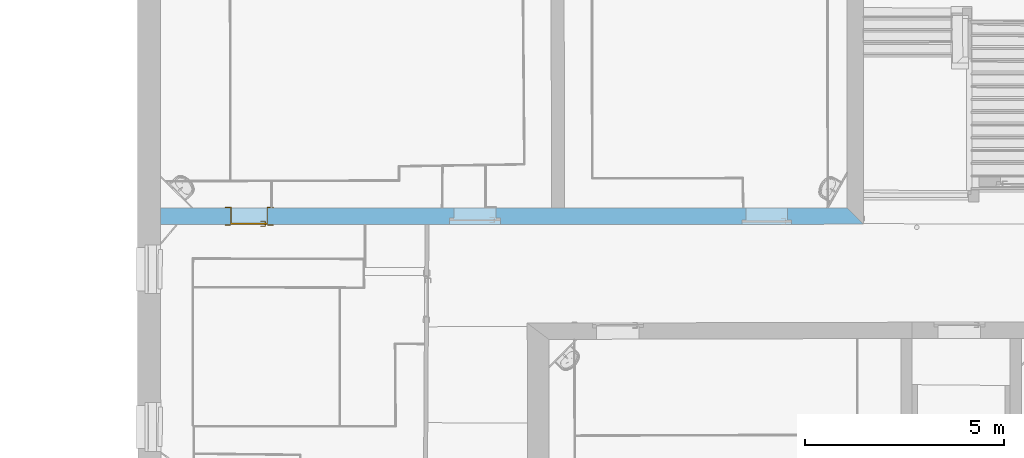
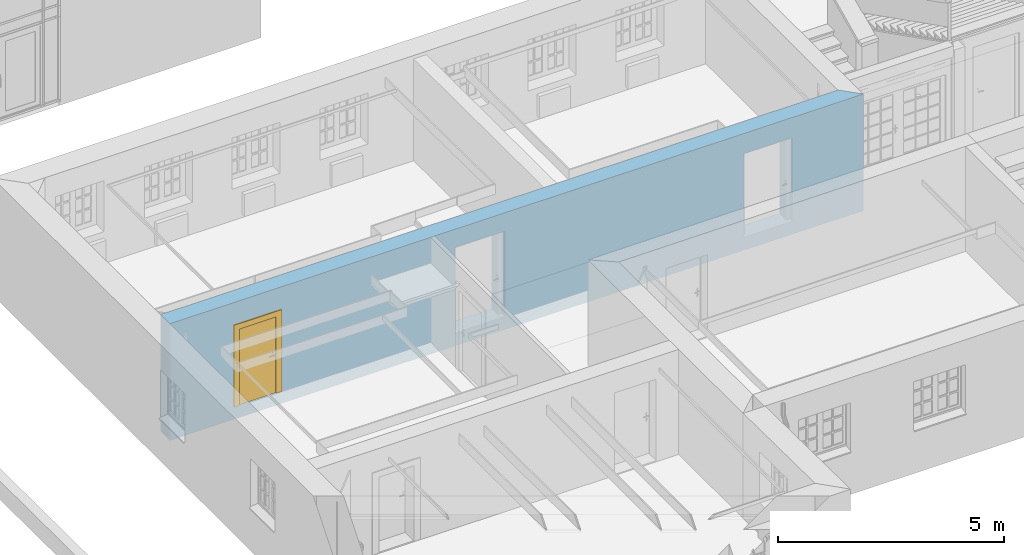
# One storey, part 75 of 196: 1 door, 3 openings, plus 1 element that does not belong to this part.
"""IFC2X3 building model written with IfcOpenShell, lengths in metres."""

from ifc_helpers import new_model, entity, si_unit, converted_unit, derived_unit, money_unit, direction, frame, origin_with_axes, origin_2d_with_axis, place, context, subcontext, project, spatial, polyline, rectangle, outline, extrude, open_shell, faceted_brep, surface_model, material, layer, layer_set, layer_usage, type_object, element, fill, save


model = new_model("IFC2X3")

# Units and contexts
model_context = context("Model", 3, precision=1e-05, world=origin_with_axes(), true_north=direction((0.0, 1.0)))
body_context = subcontext(model_context, "Body", "Model", "MODEL_VIEW")
ifc_project = project(units=[si_unit("LENGTHUNIT", "METRE"), si_unit("AREAUNIT", "SQUARE_METRE"), si_unit("VOLUMEUNIT", "CUBIC_METRE"), converted_unit("PLANEANGLEUNIT", "DEGREE", entity("IfcPlaneAngleMeasure", 0.0174532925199), si_unit("PLANEANGLEUNIT", "RADIAN"), dimensions=[0, 0, 0, 0, 0, 0, 0]), money_unit("EUR"), converted_unit("TIMEUNIT", "Year", entity("IfcTimeMeasure", 31556926.0), si_unit("TIMEUNIT", "SECOND"), dimensions=[0, 0, 1, 0, 0, 0, 0]), si_unit("MASSUNIT", "GRAM", prefix="KILO"), si_unit("THERMODYNAMICTEMPERATUREUNIT", "DEGREE_CELSIUS"), si_unit("LUMINOUSINTENSITYUNIT", "LUMEN"), si_unit("ENERGYUNIT", "JOULE", prefix="MEGA"), derived_unit("THERMALCONDUCTANCEUNIT", [(si_unit("POWERUNIT", "WATT"), 1), (si_unit("LENGTHUNIT", "METRE"), -1), (si_unit("THERMODYNAMICTEMPERATUREUNIT", "KELVIN"), -1)]), derived_unit("SPECIFICHEATCAPACITYUNIT", [(si_unit("ENERGYUNIT", "JOULE"), 1), (si_unit("MASSUNIT", "GRAM", prefix="KILO"), -1), (si_unit("THERMODYNAMICTEMPERATUREUNIT", "KELVIN"), -1)]), derived_unit("MASSDENSITYUNIT", [(si_unit("MASSUNIT", "GRAM", prefix="KILO"), 1), (si_unit("VOLUMEUNIT", "CUBIC_METRE"), -1)])], contexts=[model_context])

# Site, building, storey
site_placement = place(None, origin_with_axes())
site = spatial("IfcSite", under=ifc_project, at=site_placement, Name="Gelände", CompositionType="ELEMENT")
building_placement = place(site_placement, origin_with_axes())
building = spatial("IfcBuilding", under=site, at=building_placement, Name="Gebäude", CompositionType="ELEMENT")
storey_placement = place(building_placement, frame((0.0, 0.0, -3.0), z_axis=(0.0, 0.0, 1.0), x_axis=(1.0, 0.0, 0.0)))
storey = spatial("IfcBuildingStorey", under=building, at=storey_placement, Name="KELLERGESCHOSS", CompositionType="ELEMENT", Elevation=-3.0)

# Wall, openings, door
ifc_material = material(Name="05_ALLGEMEIN - TRAGENDE BAUTEILE")
ifc_layer = layer(ifc_material, 0.41, ventilated="UNKNOWN")
ifc_layer_set = layer_set([ifc_layer], Name="05_ALLGEMEIN - TRAGENDE BAUTEILE 0.41")
ifc_layer_usage = layer_usage(ifc_layer_set, "AXIS2", "POSITIVE", -0.41)
wall_type = type_object("IfcWallType", Name="05_ALLGEMEIN - TRAGENDE BAUTEILE 410", PredefinedType="ELEMENTEDWALL")
wall_placement = place(storey_placement, frame((-9.84148103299, 19.2659840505, -0.36), z_axis=(0.0, 0.0, 1.0), x_axis=(-0.999999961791, -0.000276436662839, 0.0)))
wall = element("IfcWallStandardCase", 1, at=wall_placement, inside=storey, type_object=wall_type, material=ifc_layer_usage, Name="Wand-036", ObjectType="ELEMENTEDWALL", context=body_context, shape_type="SweptSolid", body=[
    extrude(outline(polyline([(0.409925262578, -0.41), (17.7008366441, -0.41), (17.7005669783, 0.0), (0.0, 0.0), (0.409925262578, -0.41)])), origin_with_axes(), (0.0, 0.0, 1.0), 3.15),
])
opening_1_placement = place(wall_placement, frame((2.43435271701, 0.0, 0.34905591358), z_axis=(0.0, 0.0, 1.0), x_axis=(1.0, 0.0, 0.0)))
element("IfcOpeningElement", 2, at=opening_1_placement, cuts=wall, Name="Tür-022", context=body_context, shape_type="SweptSolid", body=[
    extrude(rectangle(XDim=1.05378116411, YDim=2.159205, at=origin_2d_with_axis()), frame((0.0, -0.11, 1.0796025), z_axis=(0.0, 1.0, 0.0), x_axis=(1.0, 0.0, 0.0)), (0.0, 0.0, -1.0), 0.71),
    extrude(rectangle(XDim=1.25378116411, YDim=2.259205, at=origin_2d_with_axis()), frame((0.0, -0.05, 1.1296025), z_axis=(0.0, -1.0, 0.0), x_axis=(1.0, 0.0, 0.0)), (0.0, 0.0, 1.0), 0.06),
    extrude(rectangle(XDim=1.25378116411, YDim=2.259205, at=origin_2d_with_axis()), frame((0.0, -0.05, 1.1296025), z_axis=(0.0, -1.0, 0.0), x_axis=(1.0, 0.0, 0.0)), (0.0, 0.0, -1.0), 0.46),
])
opening_2_placement = place(wall_placement, frame((9.78109364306, 0.0, 0.347304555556), z_axis=(0.0, 0.0, 1.0), x_axis=(1.0, 0.0, 0.0)))
element("IfcOpeningElement", 3, at=opening_2_placement, cuts=wall, Name="Tür-022", context=body_context, shape_type="SweptSolid", body=[
    extrude(rectangle(XDim=1.06444475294, YDim=2.200287, at=origin_2d_with_axis()), frame((0.0, -0.16, 1.1001435), z_axis=(0.0, 1.0, 0.0), x_axis=(1.0, 0.0, 0.0)), (0.0, 0.0, -1.0), 0.66),
    extrude(rectangle(XDim=1.28444475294, YDim=2.310287, at=origin_2d_with_axis()), frame((0.0, -0.08, 1.1551435), z_axis=(0.0, -1.0, 0.0), x_axis=(1.0, 0.0, 0.0)), (0.0, 0.0, -1.0), 0.49),
    extrude(rectangle(XDim=1.28444475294, YDim=2.310287, at=origin_2d_with_axis()), frame((0.0, -0.08, 1.1551435), z_axis=(0.0, -1.0, 0.0), x_axis=(1.0, 0.0, 0.0)), (0.0, 0.0, 1.0), 0.08),
])
opening_3_placement = place(wall_placement, frame((15.4703837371, 0.0, 0.347765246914), z_axis=(0.0, 0.0, 1.0), x_axis=(1.0, 0.0, 0.0)))
opening_3 = element("IfcOpeningElement", 4, at=opening_3_placement, cuts=wall, Name="Tür-022", context=body_context, shape_type="SweptSolid", body=[
    extrude(rectangle(XDim=0.929114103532, YDim=2.063068, at=origin_2d_with_axis()), frame((0.0, -0.41, 1.031534), z_axis=(0.0, 1.0, 0.0), x_axis=(1.0, 0.0, 0.0)), (0.0, 0.0, 1.0), 1.23),
])
door_style = type_object("IfcDoorStyle", Name="Blockrahmentür 1-Fl 25", ConstructionType="NOTDEFINED", OperationType="SINGLE_SWING_RIGHT", ParameterTakesPrecedence=False, Sizeable=False)
door_placement = place(opening_3_placement, frame((-0.449557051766, 0.0, 0.0), z_axis=(0.0, 0.0, 1.0), x_axis=(1.0, 0.0, 0.0)))
door = element("IfcDoor", 5, at=door_placement, inside=storey, type_object=door_style, Name="Tür-022", ObjectType="NOTDEFINED", OverallHeight=2.06307, OverallWidth=0.929114, context=body_context, shape_type="SurfaceModel", body=[
    faceted_brep([(0.914114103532, -0.44, 0.0), (0.914114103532, -0.035, 0.0), (0.914114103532, -0.035, 2.063068), (0.914114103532, -0.44, 2.063068), (0.899114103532, -0.44, 0.0), (0.899114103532, -0.035, 0.0), (0.899114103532, -0.035, 2.048068), (0.564657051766, -0.035, 2.048068), (0.449657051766, -0.035, 2.048068), (0.0, -0.035, 2.048068), (0.0, -0.035, 0.0), (-0.015, -0.035, 0.0), (-0.015, -0.035, 2.063068), (-0.015, -0.44, 2.063068), (-0.015, -0.44, 0.0), (0.0, -0.44, 0.0), (0.0, -0.44, 2.048068), (0.449657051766, -0.44, 2.048068), (0.564657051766, -0.44, 2.048068), (0.899114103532, -0.44, 2.048068)], [[[0, 1, 2, 3]], [[4, 5, 1, 0]], [[1, 5, 6, 7, 8, 9, 10, 11, 12, 2]], [[3, 2, 12, 13]], [[0, 3, 13, 14, 15, 16, 17, 18, 19, 4]], [[19, 6, 5, 4]], [[18, 7, 6, 19]], [[17, 8, 7, 18]], [[16, 9, 8, 17]], [[15, 10, 9, 16]], [[14, 11, 10, 15]], [[13, 12, 11, 14]]]),
    surface_model("IfcShellBasedSurfaceModel", [(0.914114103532, -0.035, 0.0), (0.914114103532, 0.03, 0.0), (0.914114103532, 0.03, 2.063068), (0.914114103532, -0.035, 2.063068), (0.914114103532, -0.035, 2.063068), (0.914114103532, 0.03, 2.063068), (0.549657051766, 0.03, 2.063068), (0.464657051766, 0.03, 2.063068), (-0.015, 0.03, 2.063068), (-0.015, 0.03, 2.063068), (-0.015, -0.035, 2.063068), (0.464657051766, -0.035, 2.063068), (0.549657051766, -0.035, 2.063068), (-0.015, -0.035, 2.063068), (-0.015, -0.035, 0.0), (-0.015, 0.03, 0.0)], [open_shell([[[0, 1, 2, 3]], [[4, 5, 1, 0]], [[6, 7, 8, 2]], [[3, 2, 9, 10]], [[10, 11, 12, 4]], [[12, 6, 5, 4]], [[11, 7, 6, 12]], [[13, 8, 7, 11]], [[14, 15, 8, 13]], [[10, 9, 15, 14]]])]),
    faceted_brep([(1.05911410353, -0.44, 0.0), (1.05911410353, -0.41, 0.0), (1.05911410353, -0.41, 2.208068), (1.05911410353, -0.44, 2.208068), (0.914114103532, -0.44, 0.0), (0.914114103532, -0.41, 0.0), (0.914114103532, -0.41, 2.063068), (-0.015, -0.41, 2.063068), (-0.015, -0.41, 0.0), (-0.16, -0.41, 0.0), (-0.16, -0.41, 2.208068), (-0.16, -0.44, 2.208068), (-0.16, -0.44, 0.0), (-0.015, -0.44, 0.0), (-0.015, -0.44, 2.063068), (0.914114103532, -0.44, 2.063068)], [[[0, 1, 2, 3]], [[4, 5, 1, 0]], [[1, 5, 6, 7, 8, 9, 10, 2]], [[3, 2, 10, 11]], [[0, 3, 11, 12, 13, 14, 15, 4]], [[15, 6, 5, 4]], [[14, 7, 6, 15]], [[13, 8, 7, 14]], [[12, 9, 8, 13]], [[11, 10, 9, 12]]]),
    faceted_brep([(1.05911410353, 0.0, 0.0), (1.05911410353, 0.03, 0.0), (1.05911410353, 0.03, 2.208068), (1.05911410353, 0.0, 2.208068), (0.914114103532, 0.0, 0.0), (0.914114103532, 0.03, 0.0), (0.914114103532, 0.03, 2.063068), (-0.015, 0.03, 2.063068), (-0.015, 0.03, 0.0), (-0.16, 0.03, 0.0), (-0.16, 0.03, 2.208068), (-0.16, 0.0, 2.208068), (-0.16, 0.0, 0.0), (-0.015, 0.0, 0.0), (-0.015, 0.0, 2.063068), (0.914114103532, 0.0, 2.063068)], [[[0, 1, 2, 3]], [[4, 5, 1, 0]], [[1, 5, 6, 7, 8, 9, 10, 2]], [[3, 2, 10, 11]], [[0, 3, 11, 12, 13, 14, 15, 4]], [[15, 6, 5, 4]], [[14, 7, 6, 15]], [[13, 8, 7, 14]], [[12, 9, 8, 13]], [[11, 10, 9, 12]]]),
    faceted_brep([(0.914114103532, 0.00199999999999, 0.0), (-0.015, 0.002, 0.0), (-0.015, 0.002, 2.063068), (0.914114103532, 0.00199999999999, 2.063068), (0.914114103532, -0.035, 0.0), (-0.015, -0.035, 0.0), (-0.015, -0.035, 2.063068), (0.914114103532, -0.035, 2.063068)], [[[0, 1, 2, 3]], [[1, 0, 4, 5]], [[2, 1, 5, 6]], [[3, 2, 6, 7]], [[0, 3, 7, 4]], [[5, 4, 7, 6]]]),
    faceted_brep([(0.0402977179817, -0.075, 1.05647213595), (0.045, -0.075, 1.058), (0.045, -0.055, 1.058), (0.0402977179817, -0.055, 1.05647213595), (0.0373915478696, -0.075, 1.05247213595), (0.0373915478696, -0.075, 1.04752786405), (0.0402977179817, -0.075, 1.04352786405), (0.045, -0.075, 1.042), (0.0497022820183, -0.075, 1.04352786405), (0.0526084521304, -0.075, 1.04752786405), (0.0526084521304, -0.075, 1.05247213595), (0.0497022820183, -0.075, 1.05647213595), (0.0497022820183, -0.055, 1.05647213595), (0.045, -0.053, 1.06), (0.0391221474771, -0.053, 1.05809016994), (0.0373915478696, -0.055, 1.05247213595), (0.0373915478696, -0.055, 1.04752786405), (0.0402977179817, -0.055, 1.04352786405), (0.045, -0.055, 1.042), (0.0497022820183, -0.055, 1.04352786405), (0.0526084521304, -0.055, 1.04752786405), (0.0526084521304, -0.055, 1.05247213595), (0.0508778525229, -0.053, 1.05809016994), (0.045, -0.045, 1.06), (0.0391221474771, -0.045, 1.05809016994), (0.0354894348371, -0.053, 1.05309016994), (0.0354894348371, -0.053, 1.04690983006), (0.0391221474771, -0.053, 1.04190983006), (0.045, -0.053, 1.04), (0.0508778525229, -0.053, 1.04190983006), (0.0545105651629, -0.053, 1.04690983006), (0.0545105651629, -0.053, 1.05309016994), (0.0508778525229, -0.045, 1.05809016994), (0.054510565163, -0.045, 1.05309016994), (0.054510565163, -0.045, 1.04690983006), (0.0508778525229, -0.045, 1.04190983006), (0.045, -0.045, 1.04), (0.0391221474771, -0.045, 1.04190983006), (0.0354894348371, -0.045, 1.04690983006), (0.0354894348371, -0.045, 1.05309016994)], [[[0, 1, 2, 3]], [[1, 0, 4, 5, 6, 7, 8, 9, 10, 11]], [[1, 11, 12, 2]], [[3, 2, 13, 14]], [[4, 0, 3, 15]], [[5, 4, 15, 16]], [[6, 5, 16, 17]], [[7, 6, 17, 18]], [[8, 7, 18, 19]], [[9, 8, 19, 20]], [[10, 9, 20, 21]], [[11, 10, 21, 12]], [[2, 12, 22, 13]], [[14, 13, 23, 24]], [[15, 3, 14, 25]], [[16, 15, 25, 26]], [[17, 16, 26, 27]], [[18, 17, 27, 28]], [[19, 18, 28, 29]], [[20, 19, 29, 30]], [[21, 20, 30, 31]], [[12, 21, 31, 22]], [[13, 22, 32, 23]], [[23, 32, 33, 34, 35, 36, 37, 38, 39, 24]], [[25, 14, 24, 39]], [[26, 25, 39, 38]], [[27, 26, 38, 37]], [[28, 27, 37, 36]], [[29, 28, 36, 35]], [[30, 29, 35, 34]], [[31, 30, 34, 33]], [[22, 31, 33, 32]]]),
    faceted_brep([(0.0571883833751, -0.045, 1.11759695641), (0.0494435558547, -0.045, 1.12195567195), (0.0405564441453, -0.045, 1.12195567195), (0.0328116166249, -0.045, 1.11759695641), (0.0282, -0.045, 1.11), (0.0225, -0.045, 1.11), (0.0225, -0.045, 0.89), (0.0282, -0.045, 0.89), (0.0328116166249, -0.045, 0.882403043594), (0.0405564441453, -0.045, 0.878044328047), (0.0494435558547, -0.045, 0.878044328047), (0.0571883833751, -0.045, 0.882403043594), (0.0618, -0.045, 0.89), (0.0675, -0.045, 0.89), (0.0675, -0.045, 1.11), (0.0618, -0.045, 1.11), (0.045, -0.045, 0.967425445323), (0.050375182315, -0.045, 0.965143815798), (0.0524678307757, -0.045, 0.959692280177), (0.05, -0.045, 0.9544), (0.05, -0.045, 0.9375), (0.0485355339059, -0.045, 0.933964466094), (0.045, -0.045, 0.9325), (0.0414644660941, -0.045, 0.933964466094), (0.04, -0.045, 0.9375), (0.04, -0.045, 0.9544), (0.0375321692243, -0.045, 0.959692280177), (0.039624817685, -0.045, 0.965143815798), (0.0571883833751, -0.035, 1.11759695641), (0.0494435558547, -0.035, 1.12195567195), (0.0405564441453, -0.035, 1.12195567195), (0.0328116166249, -0.035, 1.11759695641), (0.0282, -0.035, 1.11), (0.0225, -0.035, 1.11), (0.0225, -0.035, 0.89), (0.0282, -0.035, 0.89), (0.0328116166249, -0.035, 0.882403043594), (0.0405564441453, -0.035, 0.878044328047), (0.0494435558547, -0.035, 0.878044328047), (0.0571883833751, -0.035, 0.882403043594), (0.0618, -0.035, 0.89), (0.0675, -0.035, 0.89), (0.0675, -0.035, 1.11), (0.0618, -0.035, 1.11), (0.045, -0.035, 0.967425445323), (0.050375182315, -0.035, 0.965143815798), (0.0524678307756, -0.035, 0.959692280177), (0.05, -0.035, 0.9544), (0.05, -0.035, 0.9375), (0.0485355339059, -0.035, 0.933964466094), (0.045, -0.035, 0.9325), (0.0414644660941, -0.035, 0.933964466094), (0.04, -0.035, 0.9375), (0.04, -0.035, 0.9544), (0.0375321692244, -0.035, 0.959692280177), (0.039624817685, -0.035, 0.965143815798)], [[[0, 1, 2, 3, 4, 5, 6, 7, 8, 9, 10, 11, 12, 13, 14, 15], [16, 17, 18, 19, 20, 21, 22, 23, 24, 25, 26, 27]], [[1, 0, 28, 29]], [[2, 1, 29, 30]], [[3, 2, 30, 31]], [[4, 3, 31, 32]], [[5, 4, 32, 33]], [[6, 5, 33, 34]], [[7, 6, 34, 35]], [[8, 7, 35, 36]], [[9, 8, 36, 37]], [[10, 9, 37, 38]], [[11, 10, 38, 39]], [[12, 11, 39, 40]], [[13, 12, 40, 41]], [[14, 13, 41, 42]], [[15, 14, 42, 43]], [[0, 15, 43, 28]], [[17, 16, 44, 45]], [[18, 17, 45, 46]], [[19, 18, 46, 47]], [[19, 47, 48, 20]], [[20, 48, 49, 21]], [[21, 49, 50, 22]], [[22, 50, 51, 23]], [[23, 51, 52, 24]], [[53, 25, 24, 52]], [[26, 25, 53, 54]], [[27, 26, 54, 55]], [[16, 27, 55, 44]], [[40, 39, 38, 37, 36, 35, 34, 33, 32, 31, 30, 29, 28, 43, 42, 41], [54, 53, 52, 51, 50, 49, 48, 47, 46, 45, 44, 55]]]),
    faceted_brep([(0.159253, -0.075, 1.057158), (0.159253, -0.09, 1.057158), (0.159254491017, -0.09, 1.05719388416), (0.159254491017, -0.075, 1.05719388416), (0.132225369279, -0.075, 1.06432652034), (0.132225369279, -0.09, 1.06432652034), (0.104397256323, -0.09, 1.06706086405), (0.0764912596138, -0.09, 1.06529002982), (0.049232, -0.09, 1.05906), (0.0428294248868, -0.09, 1.05976125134), (0.0373273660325, -0.09, 1.05641280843), (0.0350084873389, -0.09, 1.05040385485), (0.0368348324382, -0.09, 1.04422735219), (0.0420486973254, -0.09, 1.04044577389), (0.0484869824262, -0.09, 1.04062800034), (0.0534786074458, -0.09, 1.04469843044), (0.053458, -0.09, 1.044666), (0.0787467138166, -0.09, 1.05019878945), (0.104589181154, -0.09, 1.05171460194), (0.130351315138, -0.09, 1.04917624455), (0.155401, -0.09, 1.042646), (0.160944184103, -0.09, 1.04356849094), (0.16430572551, -0.09, 1.04807159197), (0.163614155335, -0.09, 1.05364829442), (0.163614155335, -0.075, 1.05364829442), (0.16430572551, -0.075, 1.04807159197), (0.160944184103, -0.075, 1.04356849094), (0.155401, -0.075, 1.042646), (0.130351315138, -0.075, 1.04917624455), (0.104589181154, -0.075, 1.05171460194), (0.0787467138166, -0.075, 1.05019878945), (0.053458, -0.075, 1.044666), (0.0534786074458, -0.075, 1.04469843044), (0.0484869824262, -0.075, 1.04062800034), (0.0420486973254, -0.075, 1.04044577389), (0.0368348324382, -0.075, 1.04422735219), (0.0350084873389, -0.075, 1.05040385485), (0.0373273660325, -0.075, 1.05641280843), (0.0428294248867, -0.075, 1.05976125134), (0.049232, -0.075, 1.05906), (0.0764912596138, -0.075, 1.06529002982), (0.104397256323, -0.075, 1.06706086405)], [[[0, 1, 2, 3]], [[4, 5, 1, 0]], [[1, 5, 6, 7, 8, 9, 10, 11, 12, 13, 14, 15, 16, 17, 18, 19, 20, 21, 22, 23, 2]], [[3, 2, 23, 24]], [[0, 3, 24, 25, 26, 27, 28, 29, 30, 31, 32, 33, 34, 35, 36, 37, 38, 39, 40, 41, 4]], [[41, 6, 5, 4]], [[40, 7, 6, 41]], [[39, 8, 7, 40]], [[38, 9, 8, 39]], [[37, 10, 9, 38]], [[36, 11, 10, 37]], [[35, 12, 11, 36]], [[34, 13, 12, 35]], [[33, 14, 13, 34]], [[32, 15, 14, 33]], [[31, 16, 15, 32]], [[30, 17, 16, 31]], [[29, 18, 17, 30]], [[28, 19, 18, 29]], [[27, 20, 19, 28]], [[26, 21, 20, 27]], [[25, 22, 21, 26]], [[24, 23, 22, 25]]]),
    faceted_brep([(0.0402977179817, 0.042, 1.05647213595), (0.0402977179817, 0.022, 1.05647213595), (0.045, 0.022, 1.058), (0.045, 0.042, 1.058), (0.0373915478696, 0.042, 1.05247213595), (0.0373915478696, 0.022, 1.05247213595), (0.0391221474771, 0.02, 1.05809016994), (0.045, 0.02, 1.06), (0.0497022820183, 0.022, 1.05647213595), (0.0497022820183, 0.042, 1.05647213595), (0.0526084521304, 0.042, 1.05247213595), (0.0526084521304, 0.042, 1.04752786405), (0.0497022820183, 0.042, 1.04352786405), (0.045, 0.042, 1.042), (0.0402977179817, 0.042, 1.04352786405), (0.0373915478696, 0.042, 1.04752786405), (0.0373915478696, 0.022, 1.04752786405), (0.0354894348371, 0.02, 1.05309016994), (0.0391221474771, 0.012, 1.05809016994), (0.045, 0.012, 1.06), (0.0508778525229, 0.02, 1.05809016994), (0.0526084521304, 0.022, 1.05247213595), (0.0526084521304, 0.022, 1.04752786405), (0.0497022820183, 0.022, 1.04352786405), (0.045, 0.022, 1.042), (0.0402977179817, 0.022, 1.04352786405), (0.0354894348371, 0.02, 1.04690983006), (0.0354894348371, 0.012, 1.05309016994), (0.0354894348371, 0.012, 1.04690983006), (0.0391221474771, 0.012, 1.04190983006), (0.045, 0.012, 1.04), (0.0508778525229, 0.012, 1.04190983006), (0.0545105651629, 0.012, 1.04690983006), (0.0545105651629, 0.012, 1.05309016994), (0.0508778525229, 0.012, 1.05809016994), (0.054510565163, 0.02, 1.05309016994), (0.054510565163, 0.02, 1.04690983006), (0.0508778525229, 0.02, 1.04190983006), (0.045, 0.02, 1.04), (0.0391221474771, 0.02, 1.04190983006)], [[[0, 1, 2, 3]], [[4, 5, 1, 0]], [[1, 6, 7, 2]], [[3, 2, 8, 9]], [[3, 9, 10, 11, 12, 13, 14, 15, 4, 0]], [[15, 16, 5, 4]], [[5, 17, 6, 1]], [[6, 18, 19, 7]], [[2, 7, 20, 8]], [[9, 8, 21, 10]], [[10, 21, 22, 11]], [[11, 22, 23, 12]], [[12, 23, 24, 13]], [[13, 24, 25, 14]], [[14, 25, 16, 15]], [[16, 26, 17, 5]], [[17, 27, 18, 6]], [[19, 18, 27, 28, 29, 30, 31, 32, 33, 34]], [[7, 19, 34, 20]], [[8, 20, 35, 21]], [[21, 35, 36, 22]], [[22, 36, 37, 23]], [[23, 37, 38, 24]], [[24, 38, 39, 25]], [[25, 39, 26, 16]], [[26, 28, 27, 17]], [[39, 29, 28, 26]], [[38, 30, 29, 39]], [[37, 31, 30, 38]], [[36, 32, 31, 37]], [[35, 33, 32, 36]], [[20, 34, 33, 35]]]),
    faceted_brep([(0.0571883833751, 0.00199999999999, 1.11759695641), (0.0494435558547, 0.002, 1.12195567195), (0.0405564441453, 0.00199999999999, 1.12195567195), (0.0328116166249, 0.00199999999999, 1.11759695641), (0.0282, 0.00199999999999, 1.11), (0.0225, 0.002, 1.11), (0.0225, 0.002, 0.89), (0.0282, 0.00199999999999, 0.89), (0.0328116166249, 0.00199999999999, 0.882403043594), (0.0405564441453, 0.00199999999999, 0.878044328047), (0.0494435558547, 0.002, 0.878044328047), (0.0571883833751, 0.00199999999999, 0.882403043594), (0.0618, 0.00199999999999, 0.89), (0.0675, 0.00199999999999, 0.89), (0.0675, 0.00199999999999, 1.11), (0.0618, 0.00199999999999, 1.11), (0.045, 0.00199999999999, 0.967425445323), (0.050375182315, 0.00199999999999, 0.965143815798), (0.0524678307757, 0.00199999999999, 0.959692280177), (0.05, 0.00199999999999, 0.9544), (0.05, 0.00199999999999, 0.9375), (0.0485355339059, 0.002, 0.933964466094), (0.045, 0.00199999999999, 0.9325), (0.0414644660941, 0.002, 0.933964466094), (0.04, 0.00199999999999, 0.9375), (0.04, 0.00199999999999, 0.9544), (0.0375321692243, 0.00199999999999, 0.959692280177), (0.039624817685, 0.00199999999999, 0.965143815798), (0.0494435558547, 0.012, 1.12195567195), (0.0571883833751, 0.012, 1.11759695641), (0.0405564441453, 0.012, 1.12195567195), (0.0328116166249, 0.012, 1.11759695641), (0.0282, 0.012, 1.11), (0.0225, 0.012, 1.11), (0.0225, 0.012, 0.89), (0.0282, 0.012, 0.89), (0.0328116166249, 0.012, 0.882403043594), (0.0405564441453, 0.012, 0.878044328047), (0.0494435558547, 0.012, 0.878044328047), (0.0571883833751, 0.012, 0.882403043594), (0.0618, 0.012, 0.89), (0.0675, 0.012, 0.89), (0.0675, 0.012, 1.11), (0.0618, 0.012, 1.11), (0.045, 0.012, 0.967425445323), (0.050375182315, 0.012, 0.965143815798), (0.0524678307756, 0.012, 0.959692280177), (0.05, 0.012, 0.9544), (0.05, 0.012, 0.9375), (0.0485355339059, 0.012, 0.933964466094), (0.045, 0.012, 0.9325), (0.0414644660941, 0.012, 0.933964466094), (0.04, 0.012, 0.9375), (0.04, 0.012, 0.9544), (0.0375321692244, 0.012, 0.959692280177), (0.039624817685, 0.012, 0.965143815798)], [[[0, 1, 2, 3, 4, 5, 6, 7, 8, 9, 10, 11, 12, 13, 14, 15], [16, 17, 18, 19, 20, 21, 22, 23, 24, 25, 26, 27]], [[28, 1, 0, 29]], [[30, 2, 1, 28]], [[31, 3, 2, 30]], [[32, 4, 3, 31]], [[33, 5, 4, 32]], [[34, 6, 5, 33]], [[35, 7, 6, 34]], [[36, 8, 7, 35]], [[37, 9, 8, 36]], [[38, 10, 9, 37]], [[39, 11, 10, 38]], [[40, 12, 11, 39]], [[41, 13, 12, 40]], [[42, 14, 13, 41]], [[43, 15, 14, 42]], [[29, 0, 15, 43]], [[17, 16, 44, 45]], [[18, 17, 45, 46]], [[19, 18, 46, 47]], [[19, 47, 48, 20]], [[20, 48, 49, 21]], [[21, 49, 50, 22]], [[22, 50, 51, 23]], [[23, 51, 52, 24]], [[53, 25, 24, 52]], [[26, 25, 53, 54]], [[27, 26, 54, 55]], [[16, 27, 55, 44]], [[40, 39, 38, 37, 36, 35, 34, 33, 32, 31, 30, 28, 29, 43, 42, 41], [54, 53, 52, 51, 50, 49, 48, 47, 46, 45, 44, 55]]]),
    faceted_brep([(0.159253, 0.042, 1.057158), (0.159254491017, 0.042, 1.05719388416), (0.159254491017, 0.057, 1.05719388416), (0.159253, 0.057, 1.057158), (0.132225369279, 0.042, 1.06432652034), (0.104397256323, 0.042, 1.06706086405), (0.0764912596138, 0.042, 1.06529002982), (0.049232, 0.042, 1.05906), (0.0428294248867, 0.042, 1.05976125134), (0.0373273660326, 0.042, 1.05641280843), (0.0350084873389, 0.042, 1.05040385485), (0.0368348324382, 0.042, 1.04422735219), (0.0420486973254, 0.042, 1.04044577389), (0.0484869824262, 0.042, 1.04062800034), (0.0534786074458, 0.042, 1.04469843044), (0.053458, 0.042, 1.044666), (0.0787467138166, 0.042, 1.05019878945), (0.104589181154, 0.042, 1.05171460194), (0.130351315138, 0.042, 1.04917624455), (0.155401, 0.042, 1.042646), (0.160944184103, 0.042, 1.04356849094), (0.16430572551, 0.042, 1.04807159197), (0.163614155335, 0.042, 1.05364829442), (0.163614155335, 0.057, 1.05364829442), (0.16430572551, 0.057, 1.04807159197), (0.160944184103, 0.057, 1.04356849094), (0.155401, 0.057, 1.042646), (0.130351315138, 0.057, 1.04917624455), (0.104589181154, 0.057, 1.05171460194), (0.0787467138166, 0.057, 1.05019878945), (0.053458, 0.057, 1.044666), (0.0534786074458, 0.057, 1.04469843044), (0.0484869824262, 0.057, 1.04062800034), (0.0420486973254, 0.057, 1.04044577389), (0.0368348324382, 0.057, 1.04422735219), (0.0350084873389, 0.057, 1.05040385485), (0.0373273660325, 0.057, 1.05641280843), (0.0428294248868, 0.057, 1.05976125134), (0.049232, 0.057, 1.05906), (0.0764912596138, 0.057, 1.06529002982), (0.104397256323, 0.057, 1.06706086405), (0.132225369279, 0.057, 1.06432652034)], [[[0, 1, 2, 3]], [[0, 4, 5, 6, 7, 8, 9, 10, 11, 12, 13, 14, 15, 16, 17, 18, 19, 20, 21, 22, 1]], [[1, 22, 23, 2]], [[3, 2, 23, 24, 25, 26, 27, 28, 29, 30, 31, 32, 33, 34, 35, 36, 37, 38, 39, 40, 41]], [[4, 0, 3, 41]], [[5, 4, 41, 40]], [[6, 5, 40, 39]], [[7, 6, 39, 38]], [[8, 7, 38, 37]], [[9, 8, 37, 36]], [[10, 9, 36, 35]], [[11, 10, 35, 34]], [[12, 11, 34, 33]], [[13, 12, 33, 32]], [[14, 13, 32, 31]], [[15, 14, 31, 30]], [[16, 15, 30, 29]], [[17, 16, 29, 28]], [[18, 17, 28, 27]], [[19, 18, 27, 26]], [[20, 19, 26, 25]], [[21, 20, 25, 24]], [[22, 21, 24, 23]]]),
])
fill(opening_3, door)

save(model, "model.ifc")
